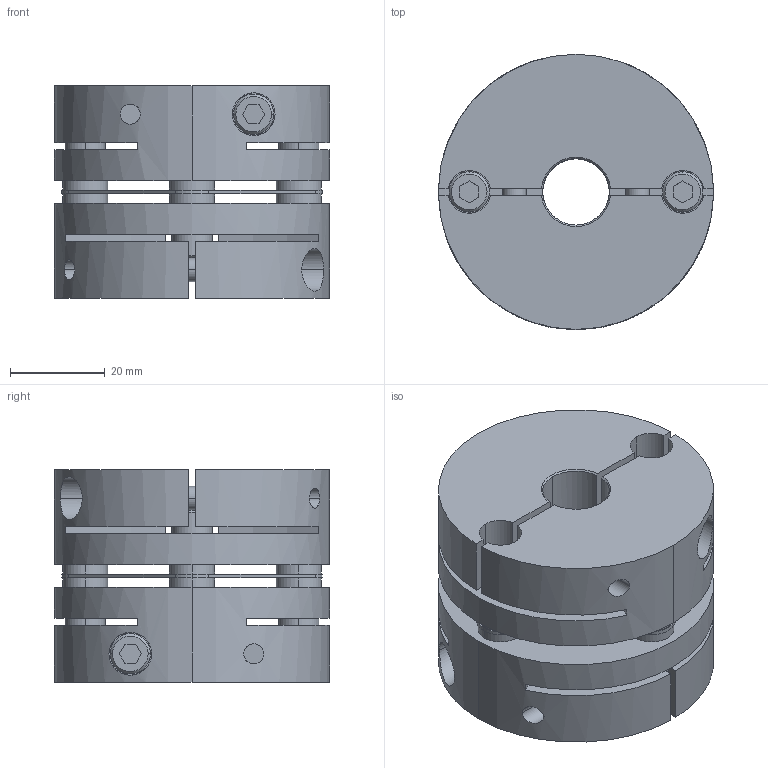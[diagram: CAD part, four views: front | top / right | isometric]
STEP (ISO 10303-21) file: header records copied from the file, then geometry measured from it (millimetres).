
FILE_DESCRIPTION((''),'2;1');
FILE_NAME('LAS-58C-14×14.stp','2015-10-14T15:53:46',(''),(''),'AutoCAD STEP 2000i','AutoCAD 2000i',', , ');
FILE_SCHEMA(('CONFIG_CONTROL_DESIGN'));
Length unit declared in the file: millimetre
Products named in the file (5): LAS-58C-12×12; 忣兜1; LA-5802-D12-1; LA-5802-D12; LAS58-ITA
Assembly tree (4 placements, depth 2):
  LAS-58C-12×12
    忣兜1
    LA-5802-D12-1
    LA-5802-D12
    LAS58-ITA
Bounding box: 58 x 58 x 44.8 mm (x, y, z)
Volume: 89231.9 mm3; surface area: 33914.2 mm2
Topology: 1 solids, 1 shells, 236 faces, 600 edges, 392 vertices
Faces by surface type: plane 112, cylinder 96, cone 28
Entity records: 7859 total; most frequent: CARTESIAN_POINT 1777, DIRECTION 1294, ORIENTED_EDGE 1200, EDGE_CURVE 600, AXIS2_PLACEMENT_3D 477, VERTEX_POINT 392, VECTOR 340, LINE 340
